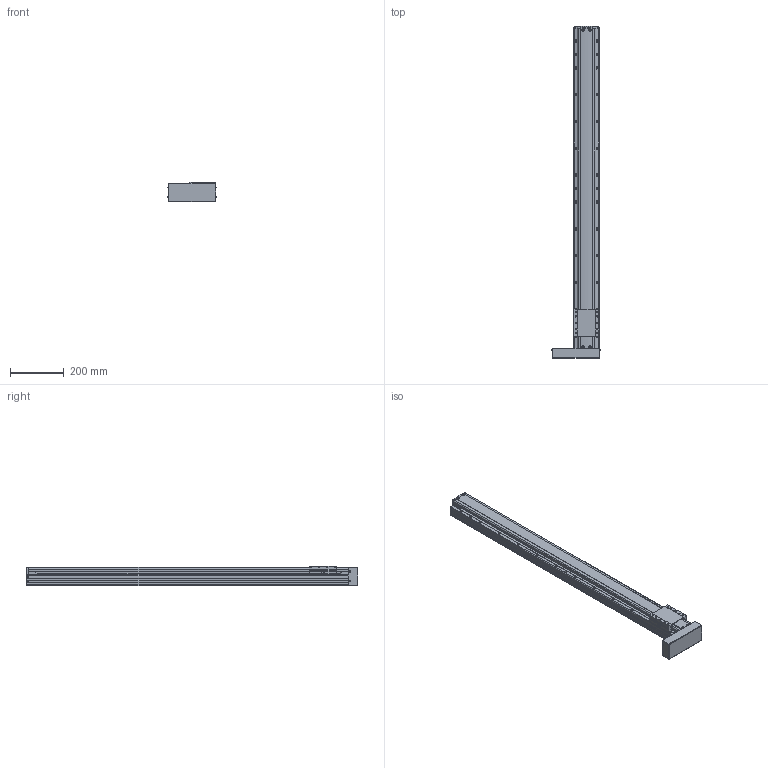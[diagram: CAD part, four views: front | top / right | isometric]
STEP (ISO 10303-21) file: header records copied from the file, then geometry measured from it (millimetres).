
FILE_DESCRIPTION(('STEP AP214'),'1');
FILE_NAME('Z:/Web/3D/PSA95/STP/PSA95-1000 (3D)/PSA95ㅁㅁ-1000PL.stp','2014-07-03T01:06:28',(' '),(' '),'Spatial InterOp 3D',' ',' ');
FILE_SCHEMA(('automotive_design'));
Length unit declared in the file: millimetre
Products named in the file (23): BASE; RRCV; 스크루 : Round - M4.0 x 10.0; 너트 : Square - M10.0 x 220.7419; RR1500; FRCV-090; 스크루 : Round - M4.0 x 6.0; SLBL-PA90; MOTOR PLATE COVER; 스크루 : Round - M3.0 x 6.0
Bounding box: 179.13 x 1236.5 x 74 mm (x, y, z)
Volume: 6836377.2 mm3; surface area: 659111.3 mm2
Topology: 23 solids, 23 shells, 1999 faces, 5378 edges, 3414 vertices
Faces by surface type: plane 1063, cylinder 643, cone 213, sphere 42, bspline 24, torus 14
Entity records: 80666 total; most frequent: CARTESIAN_POINT 13965, DIRECTION 10584, ORIENTED_EDGE 10452, EDGE_CURVE 5226, AXIS2_PLACEMENT_3D 3547, LINE 3490, VECTOR 3490, VERTEX_POINT 3414
